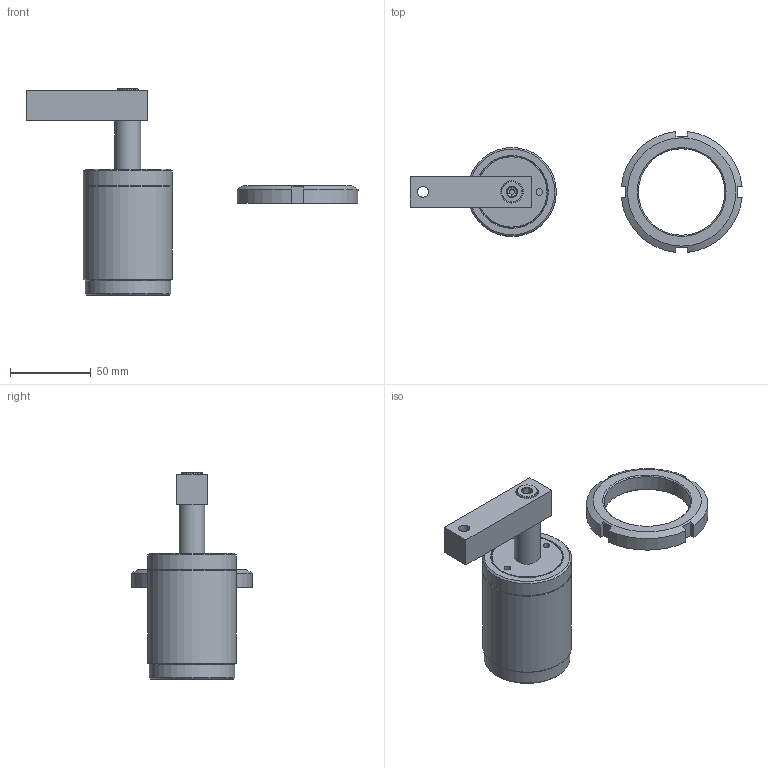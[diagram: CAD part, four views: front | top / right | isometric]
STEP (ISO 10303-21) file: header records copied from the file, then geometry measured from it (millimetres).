
FILE_DESCRIPTION(/* description */ ('Unknown'),/* implementation_level */ '2;1');
FILE_NAME(/* name */ 'ASC-TB40S-A',/* time_stamp */ '2022-08-26T02:42:13+08:00',/* author */ ('Unknown'),/* organization */ ('Unknown'),/* preprocessor_version */ 'ST-DEVELOPER v16.7',/* originating_system */ 'DEX',/* authorisation */ $);
FILE_SCHEMA (('AUTOMOTIVE_DESIGN {1 0 10303 214 3 1 1}'));
Length unit declared in the file: millimetre
Products named in the file (6): ASC-TB40S-A; ASC-4002-S-AXLE CENTRE; ASC-40S-A; ASC-TB40-Nut; ASC-4002-S-THREAD; ASC-TB40S-CYLINDER
Assembly tree (5 placements, depth 2):
  ASC-TB40S-A
    ASC-4002-S-AXLE CENTRE
    ASC-40S-A
    ASC-TB40-Nut
    ASC-4002-S-THREAD
    ASC-TB40S-CYLINDER
Bounding box: 205.34 x 74.67 x 128 mm (x, y, z)
Volume: 203263.5 mm3; surface area: 51162.6 mm2
Topology: 5 solids, 5 shells, 100 faces, 202 edges, 125 vertices
Faces by surface type: plane 45, cone 24, cylinder 22, bspline 6, torus 3
Full cylindrical faces by diameter (mm): 4.1 x2, 6.8 x1, 8 x2, 9 x1, 9.147 x2, 13 x1, 14 x1, 16 x2, 40 x2, 53 x1, 53.5 x1, 55 x2
Entity records: 3239 total; most frequent: CARTESIAN_POINT 542, DIRECTION 406, ORIENTED_EDGE 306, AXIS2_PLACEMENT_3D 177, EDGE_LOOP 158, FACE_BOUND 158, EDGE_CURVE 153, VERTEX_POINT 115
